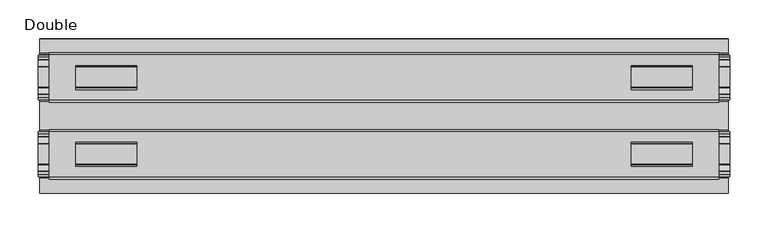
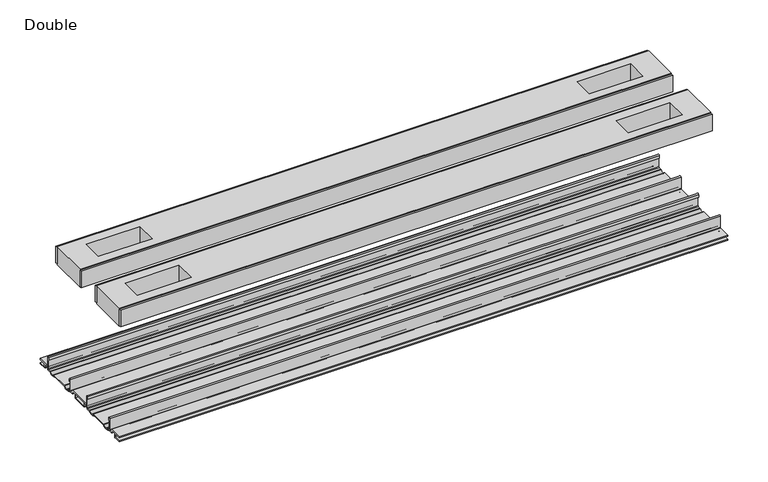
"""IFC4 building model written with IfcOpenShell, lengths in millimetres: proxy geometry, Frame-Teknion-FHCRA-Horizontal_Rail-R2022 : Double."""

import ifcopenshell
import ifcopenshell.guid

model = None  # the IFC model being written
_history = None  # IfcOwnerHistory: only IFC2X3 demands one
_inside = {}  # id of a spatial element -> (the spatial element, [elements in it])
_under = {}  # id of a project, library or spatial element -> (it, [spatial elements below it])
_declared = {}  # id of a project -> (the project, [libraries it declares])
_typed = {}  # id of a type object -> (the type object, [elements of that type])
_made_of = {}  # id of a material, layer set ... -> (it, [elements and type objects made of it])


def new_model(schema):
    """Start an empty IFC model of exactly this schema.

    Asked for "IFC4X3", IfcOpenShell would pick the latest addendum, in which some entities
    have other attributes; the version numbers below select the first issue.
    IFC2X3 requires an IfcOwnerHistory on every rooted entity: one is made here for all.
    """
    global model, _history
    if schema == "IFC4X3":
        model = ifcopenshell.file(schema_version=(4, 3, 0, 0))
    else:
        model = ifcopenshell.file(schema=schema)
    _inside.clear()
    _under.clear()
    _declared.clear()
    _typed.clear()
    _made_of.clear()
    _history = None
    if model.schema == "IFC2X3":
        org = make("IfcOrganization", Name="unknown")
        user = make(
            "IfcPersonAndOrganization",
            ThePerson=make("IfcPerson", FamilyName="unknown"),
            TheOrganization=org,
        )
        app = make(
            "IfcApplication",
            ApplicationDeveloper=org,
            Version="unknown",
            ApplicationFullName="unknown",
            ApplicationIdentifier="unknown",
        )
        _history = make(
            "IfcOwnerHistory",
            OwningUser=user,
            OwningApplication=app,
            ChangeAction="ADDED",
            CreationDate=0,
        )
    return model


def make(cls, **values):
    """One entity of the class cls with the attributes given. An attribute that is None is left unset."""
    return model.create_entity(
        cls, **{name: value for name, value in values.items() if value is not None}
    )


def rooted(cls, **values):
    """An entity with a GlobalId (a new one), such as an element, a storey or a relation."""
    return make(cls, GlobalId=ifcopenshell.guid.new(), OwnerHistory=_history, **values)


def si_unit(unit_type, name, prefix=None):
    """IfcSIUnit, for example si_unit("LENGTHUNIT", "METRE", prefix="MILLI")."""
    return make("IfcSIUnit", UnitType=unit_type, Prefix=prefix, Name=name)


def assignment(units):
    """IfcUnitAssignment: the units of a project."""
    return None if units is None else make("IfcUnitAssignment", Units=units)


def point(xyz):
    """IfcCartesianPoint."""
    return None if xyz is None else make("IfcCartesianPoint", Coordinates=xyz)


def direction(xyz):
    """IfcDirection."""
    return None if xyz is None else make("IfcDirection", DirectionRatios=xyz)


def frame(location, z_axis=None, x_axis=None):
    """IfcAxis2Placement3D, a coordinate frame: its origin and axes. An axis left out is left unset."""
    return make(
        "IfcAxis2Placement3D",
        Location=point(location),
        Axis=direction(z_axis),
        RefDirection=direction(x_axis),
    )


def frame_2d(location, x_axis=None):
    """IfcAxis2Placement2D, a coordinate frame in the plane: its origin and x axis."""
    return make(
        "IfcAxis2Placement2D", Location=point(location), RefDirection=direction(x_axis)
    )


def origin():
    """The frame at (0, 0, 0) with its axes left unset."""
    return frame((0.0, 0.0, 0.0))


def place(relative_to, where):
    """IfcLocalPlacement: puts the frame where relative to a parent placement (None: the world)."""
    return make(
        "IfcLocalPlacement", PlacementRelTo=relative_to, RelativePlacement=where
    )


def context(
    kind, dimensions, precision=None, world=None, true_north=None, identifier=None
):
    """IfcGeometricRepresentationContext, for example the 3D "Model" context."""
    return make(
        "IfcGeometricRepresentationContext",
        ContextIdentifier=identifier,
        ContextType=kind,
        CoordinateSpaceDimension=dimensions,
        Precision=precision,
        WorldCoordinateSystem=world,
        TrueNorth=true_north,
    )


def project(units=None, contexts=None):
    """IfcProject with its units and contexts."""
    return rooted(
        "IfcProject",
        Name="project",
        RepresentationContexts=contexts,
        UnitsInContext=assignment(units),
    )


def spatial(cls, under=None, at=None, **own):
    """A site, building, storey or space (cls), placed at a placement, below another one or the project."""
    s = rooted(cls, ObjectPlacement=at, **own)
    if under is not None:
        _under.setdefault(under.id(), (under, []))[1].append(s)
    return s


def polyline(points):
    """IfcPolyline through the points."""
    return make("IfcPolyline", Points=[point(p) for p in points])


def circle_curve(where, radius):
    """IfcCircle in the frame where."""
    return make("IfcCircle", Position=where, Radius=radius)


def trimmed(basis, trim1, trim2, sense, master):
    """IfcTrimmedCurve: the piece of a basis curve between two trims."""
    return make(
        "IfcTrimmedCurve",
        BasisCurve=basis,
        Trim1=trim1,
        Trim2=trim2,
        SenseAgreement=sense,
        MasterRepresentation=master,
    )


def segment(curve, same_sense, transition):
    """IfcCompositeCurveSegment."""
    return make(
        "IfcCompositeCurveSegment",
        Transition=transition,
        SameSense=same_sense,
        ParentCurve=curve,
    )


def composite_curve(segments, self_intersect=None):
    """IfcCompositeCurve: segments joined end to end."""
    return make("IfcCompositeCurve", Segments=segments, SelfIntersect=self_intersect)


def outline(outer, holes=None, kind="AREA"):
    """IfcArbitraryClosedProfileDef: a profile drawn as a closed curve; with holes, ...WithVoids."""
    if holes is None:
        return make("IfcArbitraryClosedProfileDef", ProfileType=kind, OuterCurve=outer)
    return make(
        "IfcArbitraryProfileDefWithVoids",
        ProfileType=kind,
        OuterCurve=outer,
        InnerCurves=holes,
    )


def extrude(swept, where, along, depth):
    """IfcExtrudedAreaSolid: the profile swept, set in the frame where, extruded along a direction by depth."""
    return make(
        "IfcExtrudedAreaSolid",
        SweptArea=swept,
        Position=where,
        ExtrudedDirection=direction(along),
        Depth=depth,
    )


def shape(context_of_items, identifier, shape_type, items):
    """IfcShapeRepresentation: the items that make up one representation, for example the "Body"."""
    return make(
        "IfcShapeRepresentation",
        ContextOfItems=context_of_items,
        RepresentationIdentifier=identifier,
        RepresentationType=shape_type,
        Items=items,
    )


def source(mapping_origin, context_of_items, identifier, shape_type, items):
    """IfcRepresentationMap: a shape defined once, which mapped items show again and again."""
    return make(
        "IfcRepresentationMap",
        MappingOrigin=mapping_origin,
        MappedRepresentation=shape(context_of_items, identifier, shape_type, items),
    )


def transform(
    local_origin,
    x_axis=None,
    y_axis=None,
    z_axis=None,
    scale=None,
    scale2=None,
    scale3=None,
    uniform=True,
):
    """IfcCartesianTransformationOperator3D, or its non-uniform kind. x_axis, y_axis, z_axis: its Axis1, 2, 3."""
    if uniform:
        return make(
            "IfcCartesianTransformationOperator3D",
            Axis1=direction(x_axis),
            Axis2=direction(y_axis),
            LocalOrigin=point(local_origin),
            Scale=scale,
            Axis3=direction(z_axis),
        )
    return make(
        "IfcCartesianTransformationOperator3DnonUniform",
        Axis1=direction(x_axis),
        Axis2=direction(y_axis),
        LocalOrigin=point(local_origin),
        Scale=scale,
        Axis3=direction(z_axis),
        Scale2=scale2,
        Scale3=scale3,
    )


def mapped(mapping_source, mapping_target):
    """IfcMappedItem: shows the shape of a source again, moved by a transform."""
    return make(
        "IfcMappedItem", MappingSource=mapping_source, MappingTarget=mapping_target
    )


def made_of(thing, what):
    """Note that an element or type object is made of a material, layer set ...; save() writes the relation."""
    if what is not None:
        _made_of.setdefault(what.id(), (what, []))[1].append(thing)
    return thing


def element(
    cls,
    number,
    at=None,
    inside=None,
    cuts=None,
    type_object=None,
    material=None,
    context=None,
    identifier="Body",
    shape_type=None,
    held_by="IfcProductDefinitionShape",
    body=None,
    shapes=None,
    **own,
):
    """One element of the class cls, such as IfcWall. Its Tag is "e" and its number.

    at: its placement. inside: the storey or other place that contains it. cuts: it is an
    opening in that element (IfcRelVoidsElement). A single representation is given by context,
    identifier, shape_type and body (its items); several are given by shapes. held_by: the class
    of the entity that holds the representations. save() writes the other relations.
    """
    e = rooted(cls, Tag="e%d" % number, ObjectPlacement=at, **own)
    if body is not None:
        shapes = [shape(context, identifier, shape_type, body)]
    if shapes is not None:
        e.Representation = make(held_by, Representations=shapes)
    if inside is not None:
        _inside.setdefault(inside.id(), (inside, []))[1].append(e)
    if cuts is not None:
        rooted(
            "IfcRelVoidsElement", RelatingBuildingElement=cuts, RelatedOpeningElement=e
        )
    if type_object is not None:
        _typed.setdefault(type_object.id(), (type_object, []))[1].append(e)
    return made_of(e, material)


def aggregate(whole, parts):
    """IfcRelAggregates: a whole, such as a stair, and the parts it consists of."""
    return rooted("IfcRelAggregates", RelatingObject=whole, RelatedObjects=parts)


def save(model, path):
    """Write the relations noted so far, then the file.

    IfcRelAggregates (storeys below a building ...), IfcRelContainedInSpatialStructure (elements
    in a storey), IfcRelDefinesByType, IfcRelAssociatesMaterial and IfcRelDeclares: one each for
    every whole, place, type object, material and project.
    """
    for whole, parts in _under.values():
        aggregate(whole, parts)
    for where, things in _inside.values():
        rooted(
            "IfcRelContainedInSpatialStructure",
            RelatedElements=things,
            RelatingStructure=where,
        )
    for kind, things in _typed.values():
        rooted("IfcRelDefinesByType", RelatedObjects=things, RelatingType=kind)
    for what, things in _made_of.values():
        rooted("IfcRelAssociatesMaterial", RelatedObjects=things, RelatingMaterial=what)
    for by, libraries in _declared.values():
        rooted("IfcRelDeclares", RelatingContext=by, RelatedDefinitions=libraries)
    model.write(path)


def double_f926fb1b(model_context):
    return source(origin(), model_context, "Body", "SweptSolid", [
        extrude(outline(composite_curve([segment(polyline([(-78.8225461, -7.7516037), (-78.8225461, 9.8607558)]), True, "CONTINUOUS"), segment(trimmed(circle_curve(frame_2d((-77.6033482, 9.8607558)), 1.2191979), [point((-78.8225461, 9.8607558))], [point((-76.3841503, 9.8607558))], False, "CARTESIAN"), True, "CONTINUOUS"), segment(polyline([(-76.3841503, 9.8607558), (-76.3841503, 5.9999563), (-77.6643269, 5.9999563), (-77.6643269, -7.7516037)]), True, "CONTINUOUS"), segment(trimmed(circle_curve(frame_2d((-76.6483061, -7.7516037)), 1.0160208), [point((-77.6643269, -7.7516037))], [point((-76.6548232, -8.7676036))], True, "CARTESIAN"), True, "CONTINUOUS"), segment(polyline([(-76.6548232, -8.7676036), (-72.7118726, -8.7676036), (-71.7985108, -8.968753)]), True, "CONTINUOUS"), segment(trimmed(circle_curve(frame_2d((-67.7735521, -6.1259382)), 4.9276657), [point((-71.7985108, -8.968753))], [point((-63.7485934, -8.968753))], True, "CARTESIAN"), True, "CONTINUOUS"), segment(polyline([(-63.7485934, -8.968753), (-62.8352226, -8.7676036), (-36.7962778, -8.7676036), (-35.8829069, -8.968753)]), True, "CONTINUOUS"), segment(trimmed(circle_curve(frame_2d((-31.8579482, -6.1259382)), 4.9276657), [point((-35.8829069, -8.968753))], [point((-27.8329895, -8.968753))], True, "CARTESIAN"), True, "CONTINUOUS"), segment(polyline([(-27.8329895, -8.968753), (-26.9196277, -8.7676036), (-22.9766772, -8.7676036)]), True, "CONTINUOUS"), segment(trimmed(circle_curve(frame_2d((-22.9831943, -7.7516037)), 1.0160208), [point((-22.9766772, -8.7676036))], [point((-21.9671735, -7.7516037))], True, "CARTESIAN"), True, "CONTINUOUS"), segment(polyline([(-21.9671735, -7.7516037), (-21.9671735, 5.9999563), (-23.2473501, 5.9999563), (-23.2473501, 9.8607558)]), True, "CONTINUOUS"), segment(trimmed(circle_curve(frame_2d((-22.0281522, 9.8607558)), 1.2191979), [point((-23.2473501, 9.8607558))], [point((-20.8089542, 9.8607558))], False, "CARTESIAN"), True, "CONTINUOUS"), segment(polyline([(-20.8089542, 9.8607558), (-20.8089542, -7.7516037)]), True, "CONTINUOUS"), segment(trimmed(circle_curve(frame_2d((-22.9831943, -7.7516037)), 2.17424), [point((-20.8089542, -7.7516037))], [point((-22.9831943, -9.9258438))], False, "CARTESIAN"), True, "CONTINUOUS"), segment(polyline([(-22.9831943, -9.9258438), (-27.274181, -9.9258438)]), True, "CONTINUOUS"), segment(trimmed(circle_curve(frame_2d((-31.8545955, -6.4800016)), 5.7318431), [point((-27.274181, -9.9258438))], [point((-36.43501, -9.9258438))], False, "CARTESIAN"), True, "CONTINUOUS"), segment(polyline([(-36.43501, -9.9258438), (-63.1964904, -9.9258438)]), True, "CONTINUOUS"), segment(trimmed(circle_curve(frame_2d((-67.7769049, -6.4800016)), 5.7318431), [point((-63.1964904, -9.9258438))], [point((-72.3573194, -9.9258438))], False, "CARTESIAN"), True, "CONTINUOUS"), segment(polyline([(-72.3573194, -9.9258438), (-76.6483061, -9.9258438)]), True, "CONTINUOUS"), segment(trimmed(circle_curve(frame_2d((-76.6483061, -7.7516037)), 2.17424), [point((-76.6483061, -9.9258438))], [point((-78.8225461, -7.7516037))], False, "CARTESIAN"), True, "CONTINUOUS")], self_intersect=False)), frame((-448.9704, 0.0, 0.0), z_axis=(1.0, 0.0, 0.0), x_axis=(0.0, 1.0, 0.0)), (0.0, 0.0, 1.0), 897.9408),
        extrude(outline(composite_curve([segment(trimmed(circle_curve(frame_2d((77.0293057, -7.7516037)), 2.17424), [point((79.2035458, -7.7516037))], [point((77.0293057, -9.9258438))], False, "CARTESIAN"), True, "CONTINUOUS"), segment(polyline([(77.0293057, -9.9258438), (72.738319, -9.9258438)]), True, "CONTINUOUS"), segment(trimmed(circle_curve(frame_2d((68.1579045, -6.4800016)), 5.7318431), [point((72.738319, -9.9258438))], [point((63.57749, -9.9258438))], False, "CARTESIAN"), True, "CONTINUOUS"), segment(polyline([(63.57749, -9.9258438), (36.8160096, -9.9258438)]), True, "CONTINUOUS"), segment(trimmed(circle_curve(frame_2d((32.2355951, -6.4800016)), 5.7318431), [point((36.8160096, -9.9258438))], [point((27.6551806, -9.9258438))], False, "CARTESIAN"), True, "CONTINUOUS"), segment(polyline([(27.6551806, -9.9258438), (23.3641939, -9.9258438)]), True, "CONTINUOUS"), segment(trimmed(circle_curve(frame_2d((23.3641939, -7.7516037)), 2.17424), [point((23.3641939, -9.9258438))], [point((21.1899539, -7.7516037))], False, "CARTESIAN"), True, "CONTINUOUS"), segment(polyline([(21.1899539, -7.7516037), (21.1899539, 9.8607558)]), True, "CONTINUOUS"), segment(trimmed(circle_curve(frame_2d((22.4091518, 9.8607558)), 1.2191979), [point((21.1899539, 9.8607558))], [point((23.6283497, 9.8607558))], False, "CARTESIAN"), True, "CONTINUOUS"), segment(polyline([(23.6283497, 9.8607558), (23.6283497, 5.9999563), (22.3481731, 5.9999563), (22.3481731, -7.7516037)]), True, "CONTINUOUS"), segment(trimmed(circle_curve(frame_2d((23.3641939, -7.7516037)), 1.0160208), [point((22.3481731, -7.7516037))], [point((23.3576768, -8.7676036))], True, "CARTESIAN"), True, "CONTINUOUS"), segment(polyline([(23.3576768, -8.7676036), (27.3006274, -8.7676036), (28.2139892, -8.968753)]), True, "CONTINUOUS"), segment(trimmed(circle_curve(frame_2d((32.2389479, -6.1259382)), 4.9276657), [point((28.2139892, -8.968753))], [point((36.2639066, -8.968753))], True, "CARTESIAN"), True, "CONTINUOUS"), segment(polyline([(36.2639066, -8.968753), (37.1772774, -8.7676036), (63.2162222, -8.7676036), (64.1295931, -8.968753)]), True, "CONTINUOUS"), segment(trimmed(circle_curve(frame_2d((68.1545518, -6.1259382)), 4.9276657), [point((64.1295931, -8.968753))], [point((72.1795105, -8.968753))], True, "CARTESIAN"), True, "CONTINUOUS"), segment(polyline([(72.1795105, -8.968753), (73.0928723, -8.7676036), (77.0358228, -8.7676036)]), True, "CONTINUOUS"), segment(trimmed(circle_curve(frame_2d((77.0293057, -7.7516037)), 1.0160208), [point((77.0358228, -8.7676036))], [point((78.0453265, -7.7516037))], True, "CARTESIAN"), True, "CONTINUOUS"), segment(polyline([(78.0453265, -7.7516037), (78.0453265, 5.9999563), (76.7651499, 5.9999563), (76.7651499, 9.8607558)]), True, "CONTINUOUS"), segment(trimmed(circle_curve(frame_2d((77.9843478, 9.8607558)), 1.2191979), [point((76.7651499, 9.8607558))], [point((79.2035458, 9.8607558))], False, "CARTESIAN"), True, "CONTINUOUS"), segment(polyline([(79.2035458, 9.8607558), (79.2035458, -7.7516037)]), True, "CONTINUOUS")], self_intersect=False)), frame((-448.9704, 0.0, 0.0), z_axis=(1.0, 0.0, 0.0), x_axis=(0.0, 1.0, 0.0)), (0.0, 0.0, 1.0), 897.9408),
        extrude(outline(polyline([(434.9115091, -78.8225461), (434.9115091, -81.9975522), (-434.9115091, -81.9975522), (-434.9115091, -78.8225461), (434.9115091, -78.8225461)])), frame((0.0, 0.0, 149.8401622), z_axis=(0.0, 0.0, 1.0), x_axis=(1.0, 0.0, 0.0)), (0.0, 0.0, 1.0), 25.3999939),
        extrude(outline(polyline([(434.9115091, -17.6339482), (434.9115091, -20.8089542), (-434.9115091, -20.8089542), (-434.9115091, -17.6339482), (434.9115091, -17.6339482)])), frame((0.0, 0.0, 149.8401622), z_axis=(0.0, 0.0, 1.0), x_axis=(1.0, 0.0, 0.0)), (0.0, 0.0, 1.0), 25.3999939),
        extrude(outline(polyline([(434.9115091, 21.1899493), (434.9115091, 18.0149501), (-434.9115091, 18.0149501), (-434.9115091, 21.1899493), (434.9115091, 21.1899493)])), frame((0.0, 0.0, 149.8401622), z_axis=(0.0, 0.0, 1.0), x_axis=(1.0, 0.0, 0.0)), (0.0, 0.0, 1.0), 25.3999939),
        extrude(outline(polyline([(434.9115091, 82.3785496), (434.9115091, 79.2035503), (-434.9115091, 79.2035503), (-434.9115091, 82.3785496), (434.9115091, 82.3785496)])), frame((0.0, 0.0, 149.8401622), z_axis=(0.0, 0.0, 1.0), x_axis=(1.0, 0.0, 0.0)), (0.0, 0.0, 1.0), 25.3999939),
        extrude(outline(polyline([(434.9115091, 79.2035503), (434.9115091, 21.1899493), (-434.9115091, 21.1899493), (-434.9115091, 79.2035503), (434.9115091, 79.2035503)]), holes=[polyline([(400.4944965, 65.3097536), (321.4496847, 65.3097536), (321.4496847, 34.3217468), (400.4944965, 34.3217468), (400.4944965, 65.3097536)]), polyline([(-400.4944965, 65.3097536), (-400.4944965, 34.3217468), (-321.4496847, 34.3217468), (-321.4496847, 65.3097536), (-400.4944965, 65.3097536)])]), frame((0.0, 0.0, 148.4185847), z_axis=(0.0, 0.0, 1.0), x_axis=(1.0, 0.0, 0.0)), (0.0, 0.0, 1.0), 27.9999988),
        extrude(outline(polyline([(434.9115091, -78.8225461), (-434.9115091, -78.8225461), (-434.9115091, -20.8224524), (434.9115091, -20.8224524), (434.9115091, -78.8225461)]), holes=[polyline([(400.4944965, -65.3097536), (400.4944965, -34.3217468), (321.4496847, -34.3217468), (321.4496847, -65.3097536), (400.4944965, -65.3097536)]), polyline([(-400.4944965, -65.3097536), (-321.4496847, -65.3097536), (-321.4496847, -34.3217468), (-400.4944965, -34.3217468), (-400.4944965, -65.3097536)])]), frame((0.0, 0.0, 148.4185847), z_axis=(0.0, 0.0, 1.0), x_axis=(1.0, 0.0, 0.0)), (0.0, 0.0, 1.0), 27.9999988),
        extrude(outline(composite_curve([segment(polyline([(-100.2730922, -13.9898438), (-100.2302711, -12.3388438), (-89.7890007, -12.3388438), (-89.7890007, -7.766844), (-100.2302711, -7.766844), (-100.2730922, -6.1158439), (-81.1847475, -6.1158439)]), True, "CONTINUOUS"), segment(trimmed(circle_curve(frame_2d((-81.1847475, -7.6398436)), 1.5239997), [point((-81.1847475, -6.1158439))], [point((-79.6607478, -7.6398436))], False, "CARTESIAN"), True, "CONTINUOUS"), segment(polyline([(-79.6607478, -7.6398436), (-79.6607478, -9.9258438), (-73.1120844, -9.9258438)]), True, "CONTINUOUS"), segment(trimmed(circle_curve(frame_2d((-67.7735521, -5.2268471)), 7.1119966), [point((-73.1120844, -9.9258438))], [point((-62.4350199, -9.9258438))], True, "CARTESIAN"), True, "CONTINUOUS"), segment(polyline([(-62.4350199, -9.9258438), (-37.1964805, -9.9258438)]), True, "CONTINUOUS"), segment(trimmed(circle_curve(frame_2d((-31.8579482, -5.2268471)), 7.1119966), [point((-37.1964805, -9.9258438))], [point((-26.519416, -9.9258438))], True, "CARTESIAN"), True, "CONTINUOUS"), segment(polyline([(-26.519416, -9.9258438), (-19.9707525, -9.9258438), (-19.9707525, -7.7656583)]), True, "CONTINUOUS"), segment(trimmed(circle_curve(frame_2d((-18.3197518, -7.7656583)), 1.6510007), [point((-19.9707525, -7.7656583))], [point((-18.3823282, -6.1158439))], False, "CARTESIAN"), True, "CONTINUOUS"), segment(polyline([(-18.3823282, -6.1158439), (18.7633278, -6.1158439)]), True, "CONTINUOUS"), segment(trimmed(circle_curve(frame_2d((18.7007515, -7.7656583)), 1.6510007), [point((18.7633278, -6.1158439))], [point((20.3517522, -7.7656583))], False, "CARTESIAN"), True, "CONTINUOUS"), segment(polyline([(20.3517522, -7.7656583), (20.3517522, -9.9258438), (26.9004156, -9.9258438)]), True, "CONTINUOUS"), segment(trimmed(circle_curve(frame_2d((32.2389479, -5.2268471)), 7.1119966), [point((26.9004156, -9.9258438))], [point((37.5774801, -9.9258438))], True, "CARTESIAN"), True, "CONTINUOUS"), segment(polyline([(37.5774801, -9.9258438), (62.8160195, -9.9258438)]), True, "CONTINUOUS"), segment(trimmed(circle_curve(frame_2d((68.1545518, -5.2268471)), 7.1119966), [point((62.8160195, -9.9258438))], [point((73.493084, -9.9258438))], True, "CARTESIAN"), True, "CONTINUOUS"), segment(polyline([(73.493084, -9.9258438), (80.0417475, -9.9258438), (80.0417475, -7.7656583)]), True, "CONTINUOUS"), segment(trimmed(circle_curve(frame_2d((81.6927482, -7.7656583)), 1.6510007), [point((80.0417475, -7.7656583))], [point((81.6301718, -6.1158439))], False, "CARTESIAN"), True, "CONTINUOUS"), segment(polyline([(81.6301718, -6.1158439), (100.6540918, -6.1158439), (100.6112708, -7.766844), (90.1700003, -7.766844), (90.1700003, -12.3388438), (100.6112708, -12.3388438), (100.6540918, -13.9898438), (90.0430018, -13.9898438)]), True, "CONTINUOUS"), segment(trimmed(circle_curve(frame_2d((90.0430018, -12.4658438)), 1.524), [point((90.0430018, -13.9898438))], [point((88.5190019, -12.4658438))], False, "CARTESIAN"), True, "CONTINUOUS"), segment(polyline([(88.5190019, -12.4658438), (88.5190019, -7.766844), (81.692747, -7.766844), (81.692747, -10.0528438)]), True, "CONTINUOUS"), segment(trimmed(circle_curve(frame_2d((80.1687471, -10.0528438)), 1.524), [point((81.692747, -10.0528438))], [point((80.1687471, -11.5768438))], False, "CARTESIAN"), True, "CONTINUOUS"), segment(polyline([(80.1687471, -11.5768438), (73.6626049, -11.5768438)]), True, "CONTINUOUS"), segment(trimmed(circle_curve(frame_2d((68.1545518, -6.4968436)), 7.4930002), [point((73.6626049, -11.5768438))], [point((62.8967468, -11.8354331))], False, "CARTESIAN"), True, "CONTINUOUS"), segment(polyline([(62.8967468, -11.8354331), (37.4967528, -11.8354331)]), True, "CONTINUOUS"), segment(trimmed(circle_curve(frame_2d((32.2389479, -6.4968436)), 7.4930002), [point((37.4967528, -11.8354331))], [point((26.7308947, -11.5768438))], False, "CARTESIAN"), True, "CONTINUOUS"), segment(polyline([(26.7308947, -11.5768438), (20.2247526, -11.5768438)]), True, "CONTINUOUS"), segment(trimmed(circle_curve(frame_2d((20.2247526, -10.0528438)), 1.524), [point((20.2247526, -11.5768438))], [point((18.7007526, -10.0528438))], False, "CARTESIAN"), True, "CONTINUOUS"), segment(polyline([(18.7007526, -10.0528438), (18.7007526, -7.766844), (11.8744978, -7.766844), (11.8744978, -12.4658438)]), True, "CONTINUOUS"), segment(trimmed(circle_curve(frame_2d((10.3504978, -12.4658438)), 1.524), [point((11.8744978, -12.4658438))], [point((10.3504978, -13.9898438))], False, "CARTESIAN"), True, "CONTINUOUS"), segment(polyline([(10.3504978, -13.9898438), (-9.9694982, -13.9898438)]), True, "CONTINUOUS"), segment(trimmed(circle_curve(frame_2d((-9.9694982, -12.4658438)), 1.524), [point((-9.9694982, -13.9898438))], [point((-11.4934981, -12.4658438))], False, "CARTESIAN"), True, "CONTINUOUS"), segment(polyline([(-11.4934981, -12.4658438), (-11.4934981, -7.766844), (-18.319753, -7.766844), (-18.319753, -10.0528438)]), True, "CONTINUOUS"), segment(trimmed(circle_curve(frame_2d((-19.8437529, -10.0528438)), 1.524), [point((-18.319753, -10.0528438))], [point((-19.8437529, -11.5768438))], False, "CARTESIAN"), True, "CONTINUOUS"), segment(polyline([(-19.8437529, -11.5768438), (-26.3498951, -11.5768438)]), True, "CONTINUOUS"), segment(trimmed(circle_curve(frame_2d((-31.8579482, -6.4968436)), 7.4930002), [point((-26.3498951, -11.5768438))], [point((-37.1157532, -11.8354331))], False, "CARTESIAN"), True, "CONTINUOUS"), segment(polyline([(-37.1157532, -11.8354331), (-62.5157472, -11.8354331)]), True, "CONTINUOUS"), segment(trimmed(circle_curve(frame_2d((-67.7735521, -6.4968436)), 7.4930002), [point((-62.5157472, -11.8354331))], [point((-73.2816053, -11.5768438))], False, "CARTESIAN"), True, "CONTINUOUS"), segment(polyline([(-73.2816053, -11.5768438), (-79.7877474, -11.5768438)]), True, "CONTINUOUS"), segment(trimmed(circle_curve(frame_2d((-79.7877474, -10.0528438)), 1.524), [point((-79.7877474, -11.5768438))], [point((-81.3117474, -10.0528438))], False, "CARTESIAN"), True, "CONTINUOUS"), segment(polyline([(-81.3117474, -10.0528438), (-81.3117474, -7.766844), (-88.1380022, -7.766844), (-88.1380022, -12.4658438)]), True, "CONTINUOUS"), segment(trimmed(circle_curve(frame_2d((-89.6620022, -12.4658438)), 1.524), [point((-88.1380022, -12.4658438))], [point((-89.6620022, -13.9898438))], False, "CARTESIAN"), True, "CONTINUOUS"), segment(polyline([(-89.6620022, -13.9898438), (-100.2730922, -13.9898438)]), True, "CONTINUOUS")], self_intersect=False), holes=[polyline([(-9.8424997, -12.3388438), (10.2234993, -12.3388438), (10.2234993, -7.766844), (-9.8424997, -7.766844), (-9.8424997, -12.3388438)])]), frame((-447.3194, 0.0, 0.0), z_axis=(1.0, 0.0, 0.0), x_axis=(0.0, 1.0, 0.0)), (0.0, 0.0, 1.0), 894.6388),
    ])


if __name__ == "__main__":
    model = new_model("IFC4")
    model_context = context("Model", 3, world=origin())
    ifc_project = project(units=[si_unit("LENGTHUNIT", "METRE", prefix="MILLI")], contexts=[model_context])
    site = spatial("IfcSite", under=ifc_project)
    building = spatial("IfcBuilding", under=site)
    placement = place(None, origin())
    double_shape = double_f926fb1b(model_context)
    element("IfcBuildingElementProxy", 1, Name="Frame-Teknion-FHCRA-Horizontal_Rail-R2022 : Double", ObjectType="Frame-Teknion-FHCRA-Horizontal_Rail-R2022 : Double", at=placement, inside=building, context=model_context, shape_type="MappedRepresentation", body=[
        mapped(double_shape, transform((0.0, 0.0, 0.0), x_axis=(1.0, 0.0, 0.0), y_axis=(0.0, 1.0, 0.0), z_axis=(0.0, 0.0, 1.0))),
    ])
    save(model, "model.ifc")
